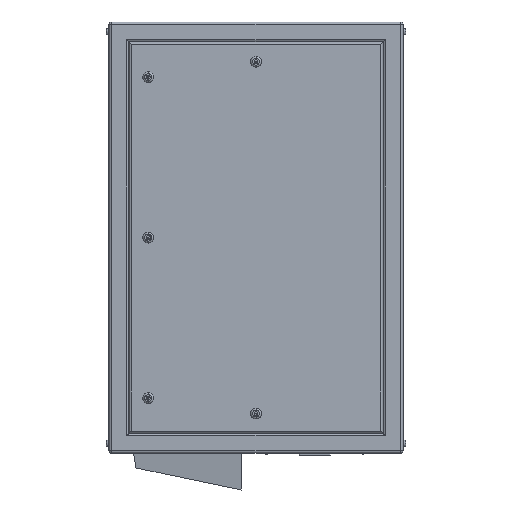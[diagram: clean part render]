
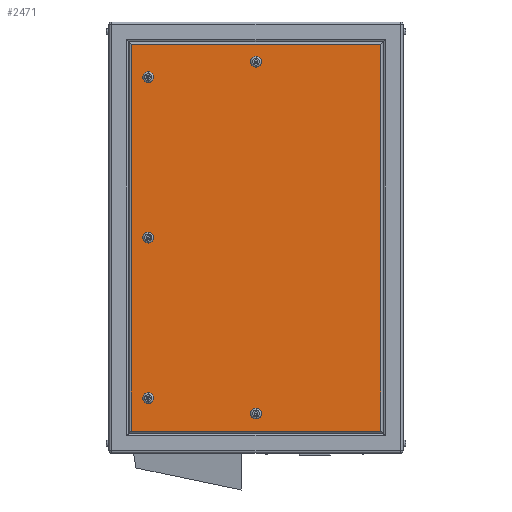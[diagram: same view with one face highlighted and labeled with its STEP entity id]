
A CAD part, left-side view. The second image highlights one B-rep face of the part: STEP entity #2471.
In plain terms, the highlighted planar face has unit normal (-1, 0, 0).
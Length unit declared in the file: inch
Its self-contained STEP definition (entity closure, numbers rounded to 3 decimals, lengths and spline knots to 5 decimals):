
#10 = LINE ( 'NONE', #4243, #2075 ) ;
#55 = LINE ( 'NONE', #20779, #7081 ) ;
#228 = CARTESIAN_POINT ( 'NONE',  ( -9., 15., -22. ) ) ;
#313 = CIRCLE ( 'NONE', #7106, 0.55 ) ;
#393 = ORIENTED_EDGE ( 'NONE', *, *, #9872, .T. ) ;
#556 = CARTESIAN_POINT ( 'NONE',  ( -9., 11., 0.55 ) ) ;
#698 = AXIS2_PLACEMENT_3D ( 'NONE', #5936, #23446, #13866 ) ;
#766 = CARTESIAN_POINT ( 'NONE',  ( -9., -12.74, -19.74 ) ) ;
#805 = EDGE_CURVE ( 'NONE', #21799, #12286, #2127, .T. ) ;
#1036 = FACE_BOUND ( 'NONE', #11420, .T. ) ;
#2066 = EDGE_CURVE ( 'NONE', #6143, #19049, #10, .T. ) ;
#2075 = VECTOR ( 'NONE', #21328, 39.37008 ) ;
#2127 = CIRCLE ( 'NONE', #4935, 0.55 ) ;
#2137 = CIRCLE ( 'NONE', #22050, 0.55 ) ;
#2405 = DIRECTION ( 'NONE',  ( 1., 0., 0. ) ) ;
#2471 = ADVANCED_FACE ( 'NONE', ( #20246, #21981, #19985, #1036, #16159, #4777 ), #20114, .F. ) ;
#2513 = LINE ( 'NONE', #14018, #3900 ) ;
#2741 = DIRECTION ( 'NONE',  ( 0., 0., -1. ) ) ;
#3400 = VERTEX_POINT ( 'NONE', #10825 ) ;
#3458 = EDGE_LOOP ( 'NONE', ( #17781, #24510 ) ) ;
#3503 = CIRCLE ( 'NONE', #698, 0.55 ) ;
#3723 = ORIENTED_EDGE ( 'NONE', *, *, #10191, .T. ) ;
#3900 = VECTOR ( 'NONE', #10164, 39.37008 ) ;
#4140 = DIRECTION ( 'NONE',  ( 0., 0., 1. ) ) ;
#4243 = CARTESIAN_POINT ( 'NONE',  ( -9., 15., -19.74 ) ) ;
#4433 = DIRECTION ( 'NONE',  ( 1., 0., 0. ) ) ;
#4604 = DIRECTION ( 'NONE',  ( 0., 0., -1. ) ) ;
#4689 = VERTEX_POINT ( 'NONE', #21079 ) ;
#4777 = FACE_OUTER_BOUND ( 'NONE', #24195, .T. ) ;
#4935 = AXIS2_PLACEMENT_3D ( 'NONE', #14419, #12544, #17910 ) ;
#4957 = EDGE_CURVE ( 'NONE', #10259, #15466, #3503, .T. ) ;
#5008 = CARTESIAN_POINT ( 'NONE',  ( -9., 0., -18.5 ) ) ;
#5039 = CARTESIAN_POINT ( 'NONE',  ( -9., 11., 0. ) ) ;
#5131 = CARTESIAN_POINT ( 'NONE',  ( -9., 0., 17.4 ) ) ;
#5165 = VERTEX_POINT ( 'NONE', #13827 ) ;
#5501 = EDGE_CURVE ( 'NONE', #23128, #5564, #313, .T. ) ;
#5540 = EDGE_LOOP ( 'NONE', ( #3723, #13853 ) ) ;
#5564 = VERTEX_POINT ( 'NONE', #6119 ) ;
#5729 = CARTESIAN_POINT ( 'NONE',  ( -9., 11., -16.925 ) ) ;
#5936 = CARTESIAN_POINT ( 'NONE',  ( -9., 11., 0. ) ) ;
#6119 = CARTESIAN_POINT ( 'NONE',  ( -9., 11., -15.825 ) ) ;
#6143 = VERTEX_POINT ( 'NONE', #7189 ) ;
#7078 = EDGE_CURVE ( 'NONE', #21779, #5165, #16581, .T. ) ;
#7081 = VECTOR ( 'NONE', #14948, 39.37008 ) ;
#7106 = AXIS2_PLACEMENT_3D ( 'NONE', #20881, #11180, #19032 ) ;
#7189 = CARTESIAN_POINT ( 'NONE',  ( -9., 12.74, -19.74 ) ) ;
#7523 = ORIENTED_EDGE ( 'NONE', *, *, #11872, .T. ) ;
#8078 = EDGE_CURVE ( 'NONE', #5564, #23128, #17509, .T. ) ;
#8082 = CARTESIAN_POINT ( 'NONE',  ( -9., 11., -0.55 ) ) ;
#8351 = AXIS2_PLACEMENT_3D ( 'NONE', #14447, #4433, #8451 ) ;
#8451 = DIRECTION ( 'NONE',  ( 0., 0., -1. ) ) ;
#9083 = VECTOR ( 'NONE', #24038, 39.37008 ) ;
#9166 = DIRECTION ( 'NONE',  ( 0., 0., -1. ) ) ;
#9266 = AXIS2_PLACEMENT_3D ( 'NONE', #15658, #2405, #14030 ) ;
#9316 = ORIENTED_EDGE ( 'NONE', *, *, #7078, .T. ) ;
#9872 = EDGE_CURVE ( 'NONE', #23258, #20842, #10513, .T. ) ;
#10026 = EDGE_LOOP ( 'NONE', ( #21429, #15851 ) ) ;
#10164 = DIRECTION ( 'NONE',  ( 0., 0., -1. ) ) ;
#10191 = EDGE_CURVE ( 'NONE', #3400, #4689, #2137, .T. ) ;
#10259 = VERTEX_POINT ( 'NONE', #8082 ) ;
#10476 = ORIENTED_EDGE ( 'NONE', *, *, #4957, .T. ) ;
#10513 = CIRCLE ( 'NONE', #18071, 0.55 ) ;
#10602 = ORIENTED_EDGE ( 'NONE', *, *, #14412, .T. ) ;
#10825 = CARTESIAN_POINT ( 'NONE',  ( -9., 11., 15.825 ) ) ;
#10861 = CIRCLE ( 'NONE', #9266, 0.55 ) ;
#11180 = DIRECTION ( 'NONE',  ( 1., 0., 0. ) ) ;
#11277 = DIRECTION ( 'NONE',  ( 0., 0., -1. ) ) ;
#11420 = EDGE_LOOP ( 'NONE', ( #10476, #7523 ) ) ;
#11872 = EDGE_CURVE ( 'NONE', #15466, #10259, #18087, .T. ) ;
#12106 = CARTESIAN_POINT ( 'NONE',  ( -9., 11., 16.375 ) ) ;
#12286 = VERTEX_POINT ( 'NONE', #5008 ) ;
#12544 = DIRECTION ( 'NONE',  ( 1., 0., 0. ) ) ;
#13588 = DIRECTION ( 'NONE',  ( 0., 0., -1. ) ) ;
#13646 = DIRECTION ( 'NONE',  ( 1., 0., 0. ) ) ;
#13652 = ORIENTED_EDGE ( 'NONE', *, *, #2066, .T. ) ;
#13752 = CIRCLE ( 'NONE', #23698, 0.55 ) ;
#13827 = CARTESIAN_POINT ( 'NONE',  ( -9., 12.74, 19.74 ) ) ;
#13853 = ORIENTED_EDGE ( 'NONE', *, *, #20392, .T. ) ;
#13866 = DIRECTION ( 'NONE',  ( 0., 0., -1. ) ) ;
#14018 = CARTESIAN_POINT ( 'NONE',  ( -9., 12.74, -22. ) ) ;
#14030 = DIRECTION ( 'NONE',  ( 0., 0., -1. ) ) ;
#14412 = EDGE_CURVE ( 'NONE', #20842, #23258, #10861, .T. ) ;
#14419 = CARTESIAN_POINT ( 'NONE',  ( -9., 0., -17.95 ) ) ;
#14447 = CARTESIAN_POINT ( 'NONE',  ( -9., 11., -16.375 ) ) ;
#14813 = CARTESIAN_POINT ( 'NONE',  ( -9., 15., 19.74 ) ) ;
#14948 = DIRECTION ( 'NONE',  ( 0., 0., 1. ) ) ;
#15158 = CARTESIAN_POINT ( 'NONE',  ( -9., 0., 18.5 ) ) ;
#15390 = CIRCLE ( 'NONE', #18963, 0.55 ) ;
#15466 = VERTEX_POINT ( 'NONE', #556 ) ;
#15658 = CARTESIAN_POINT ( 'NONE',  ( -9., 0., 17.95 ) ) ;
#15792 = EDGE_LOOP ( 'NONE', ( #393, #10602 ) ) ;
#15851 = ORIENTED_EDGE ( 'NONE', *, *, #805, .T. ) ;
#16159 = FACE_BOUND ( 'NONE', #5540, .T. ) ;
#16581 = LINE ( 'NONE', #14813, #9083 ) ;
#16868 = CARTESIAN_POINT ( 'NONE',  ( -9., -12.74, 19.74 ) ) ;
#17115 = CARTESIAN_POINT ( 'NONE',  ( -9., 0., -17.4 ) ) ;
#17509 = CIRCLE ( 'NONE', #8351, 0.55 ) ;
#17513 = CARTESIAN_POINT ( 'NONE',  ( -9., 0., -17.95 ) ) ;
#17781 = ORIENTED_EDGE ( 'NONE', *, *, #5501, .T. ) ;
#17910 = DIRECTION ( 'NONE',  ( 0., 0., 1. ) ) ;
#17961 = DIRECTION ( 'NONE',  ( 1., 0., 0. ) ) ;
#18071 = AXIS2_PLACEMENT_3D ( 'NONE', #20049, #22410, #9166 ) ;
#18087 = CIRCLE ( 'NONE', #21236, 0.55 ) ;
#18963 = AXIS2_PLACEMENT_3D ( 'NONE', #17513, #13646, #4140 ) ;
#19032 = DIRECTION ( 'NONE',  ( 0., 0., -1. ) ) ;
#19049 = VERTEX_POINT ( 'NONE', #766 ) ;
#19347 = EDGE_CURVE ( 'NONE', #19049, #21779, #55, .T. ) ;
#19459 = EDGE_CURVE ( 'NONE', #5165, #6143, #2513, .T. ) ;
#19670 = CARTESIAN_POINT ( 'NONE',  ( -9., 11., 16.375 ) ) ;
#19985 = FACE_BOUND ( 'NONE', #3458, .T. ) ;
#20049 = CARTESIAN_POINT ( 'NONE',  ( -9., 0., 17.95 ) ) ;
#20114 = PLANE ( 'NONE',  #22026 ) ;
#20246 = FACE_BOUND ( 'NONE', #10026, .T. ) ;
#20392 = EDGE_CURVE ( 'NONE', #4689, #3400, #13752, .T. ) ;
#20779 = CARTESIAN_POINT ( 'NONE',  ( -9., -12.74, -22. ) ) ;
#20842 = VERTEX_POINT ( 'NONE', #15158 ) ;
#20881 = CARTESIAN_POINT ( 'NONE',  ( -9., 11., -16.375 ) ) ;
#20993 = EDGE_CURVE ( 'NONE', #12286, #21799, #15390, .T. ) ;
#21079 = CARTESIAN_POINT ( 'NONE',  ( -9., 11., 16.925 ) ) ;
#21236 = AXIS2_PLACEMENT_3D ( 'NONE', #5039, #24146, #11277 ) ;
#21328 = DIRECTION ( 'NONE',  ( 0., -1., 0. ) ) ;
#21429 = ORIENTED_EDGE ( 'NONE', *, *, #20993, .T. ) ;
#21444 = DIRECTION ( 'NONE',  ( 1., 0., 0. ) ) ;
#21779 = VERTEX_POINT ( 'NONE', #16868 ) ;
#21799 = VERTEX_POINT ( 'NONE', #17115 ) ;
#21981 = FACE_BOUND ( 'NONE', #15792, .T. ) ;
#22026 = AXIS2_PLACEMENT_3D ( 'NONE', #228, #21444, #4604 ) ;
#22050 = AXIS2_PLACEMENT_3D ( 'NONE', #12106, #17961, #2741 ) ;
#22410 = DIRECTION ( 'NONE',  ( 1., 0., 0. ) ) ;
#22482 = ORIENTED_EDGE ( 'NONE', *, *, #19347, .T. ) ;
#22936 = ORIENTED_EDGE ( 'NONE', *, *, #19459, .T. ) ;
#23128 = VERTEX_POINT ( 'NONE', #5729 ) ;
#23258 = VERTEX_POINT ( 'NONE', #5131 ) ;
#23285 = DIRECTION ( 'NONE',  ( 1., 0., 0. ) ) ;
#23446 = DIRECTION ( 'NONE',  ( 1., 0., 0. ) ) ;
#23698 = AXIS2_PLACEMENT_3D ( 'NONE', #19670, #23285, #13588 ) ;
#24038 = DIRECTION ( 'NONE',  ( 0., 1., 0. ) ) ;
#24146 = DIRECTION ( 'NONE',  ( 1., 0., 0. ) ) ;
#24195 = EDGE_LOOP ( 'NONE', ( #13652, #22482, #9316, #22936 ) ) ;
#24510 = ORIENTED_EDGE ( 'NONE', *, *, #8078, .T. ) ;
